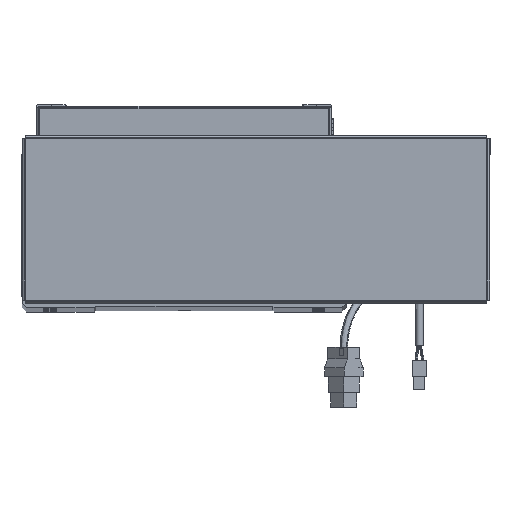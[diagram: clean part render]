
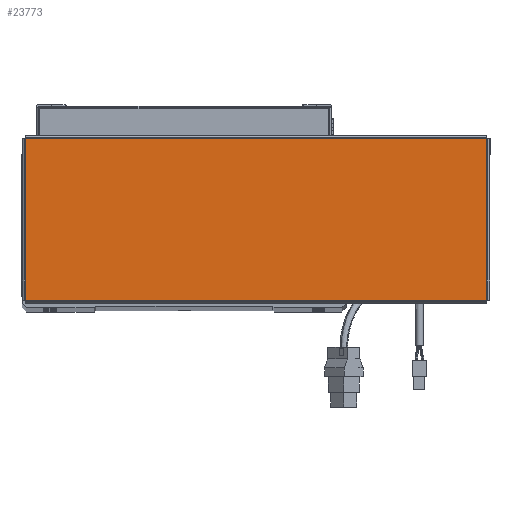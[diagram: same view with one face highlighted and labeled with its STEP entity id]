
A CAD part, top view. The second image highlights one B-rep face of the part: STEP entity #23773.
In plain terms, the highlighted planar face has unit normal (0, 0, 1).
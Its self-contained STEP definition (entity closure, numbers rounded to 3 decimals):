
#2884 = CARTESIAN_POINT ( 'NONE',  ( 156.513, 54.763, 0. ) ) ;
#3223 = VERTEX_POINT ( 'NONE', #18161 ) ;
#3335 = PLANE ( 'NONE',  #68478 ) ;
#4797 = DIRECTION ( 'NONE',  ( 0., 1., 0. ) ) ;
#7286 = VECTOR ( 'NONE', #4797, 1000. ) ;
#11599 = LINE ( 'NONE', #33748, #45598 ) ;
#13781 = VECTOR ( 'NONE', #14471, 1000. ) ;
#14471 = DIRECTION ( 'NONE',  ( -1., 0., 0. ) ) ;
#15682 = CARTESIAN_POINT ( 'NONE',  ( -156.513, -54.763, 0. ) ) ;
#16396 = EDGE_LOOP ( 'NONE', ( #18848, #28718, #17123, #50809 ) ) ;
#16513 = FACE_OUTER_BOUND ( 'NONE', #16396, .T. ) ;
#17123 = ORIENTED_EDGE ( 'NONE', *, *, #19384, .T. ) ;
#18161 = CARTESIAN_POINT ( 'NONE',  ( -156.513, 54.763, 0. ) ) ;
#18848 = ORIENTED_EDGE ( 'NONE', *, *, #21485, .T. ) ;
#19384 = EDGE_CURVE ( 'NONE', #28286, #3223, #27817, .T. ) ;
#19800 = VERTEX_POINT ( 'NONE', #15682 ) ;
#21485 = EDGE_CURVE ( 'NONE', #19800, #28836, #64115, .T. ) ;
#23773 = ADVANCED_FACE ( 'NONE', ( #16513 ), #3335, .T. ) ;
#27558 = CARTESIAN_POINT ( 'NONE',  ( -156.543, -54.763, 0. ) ) ;
#27817 = LINE ( 'NONE', #51558, #13781 ) ;
#28286 = VERTEX_POINT ( 'NONE', #2884 ) ;
#28352 = VECTOR ( 'NONE', #53839, 1000. ) ;
#28718 = ORIENTED_EDGE ( 'NONE', *, *, #32569, .T. ) ;
#28836 = VERTEX_POINT ( 'NONE', #40016 ) ;
#32569 = EDGE_CURVE ( 'NONE', #28836, #28286, #52947, .T. ) ;
#33748 = CARTESIAN_POINT ( 'NONE',  ( -156.513, 54.793, 0. ) ) ;
#38375 = EDGE_CURVE ( 'NONE', #3223, #19800, #11599, .T. ) ;
#40016 = CARTESIAN_POINT ( 'NONE',  ( 156.513, -54.763, 0. ) ) ;
#40411 = DIRECTION ( 'NONE',  ( 1., 0., 0. ) ) ;
#45598 = VECTOR ( 'NONE', #65723, 1000. ) ;
#50809 = ORIENTED_EDGE ( 'NONE', *, *, #38375, .T. ) ;
#50861 = CARTESIAN_POINT ( 'NONE',  ( 0., 0., 0. ) ) ;
#51558 = CARTESIAN_POINT ( 'NONE',  ( 156.543, 54.763, 0. ) ) ;
#52947 = LINE ( 'NONE', #57817, #7286 ) ;
#53839 = DIRECTION ( 'NONE',  ( 1., 0., 0. ) ) ;
#57817 = CARTESIAN_POINT ( 'NONE',  ( 156.513, -54.793, 0. ) ) ;
#61714 = DIRECTION ( 'NONE',  ( 0., 0., 1. ) ) ;
#64115 = LINE ( 'NONE', #27558, #28352 ) ;
#65723 = DIRECTION ( 'NONE',  ( 0., -1., 0. ) ) ;
#68478 = AXIS2_PLACEMENT_3D ( 'NONE', #50861, #61714, #40411 ) ;
